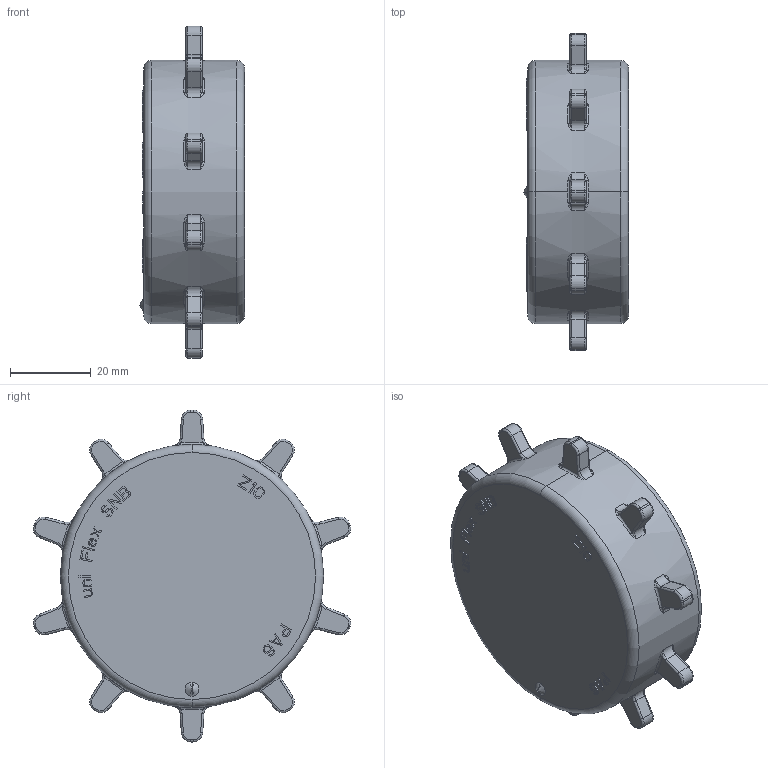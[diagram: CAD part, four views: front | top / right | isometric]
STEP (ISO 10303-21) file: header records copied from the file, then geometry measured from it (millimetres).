
FILE_DESCRIPTION((''),'2;1');
FILE_NAME('213Z10','2012-01-12T',('mth'),(''),'PRO/ENGINEER BY PARAMETRIC TECHNOLOGY CORPORATION, 2010280','PRO/ENGINEER BY PARAMETRIC TECHNOLOGY CORPORATION, 2010280','');
FILE_SCHEMA(('CONFIG_CONTROL_DESIGN','SHAPE_APPEARANCE_LAYERS_GROUPS'));
Length unit declared in the file: millimetre
Products named in the file (1): 213Z10
Bounding box: 26 x 78.54 x 82.17 mm (x, y, z)
Volume: 84907.8 mm3; surface area: 12842.1 mm2
Topology: 1 solids, 1 shells, 709 faces, 1821 edges, 1145 vertices
Faces by surface type: plane 451, torus 124, cylinder 92, bspline 40, cone 2
Entity records: 23761 total; most frequent: CARTESIAN_POINT 6517, ORIENTED_EDGE 3638, DIRECTION 3495, EDGE_CURVE 1819, VECTOR 1321, LINE 1321, VERTEX_POINT 1145, AXIS2_PLACEMENT_3D 1087
